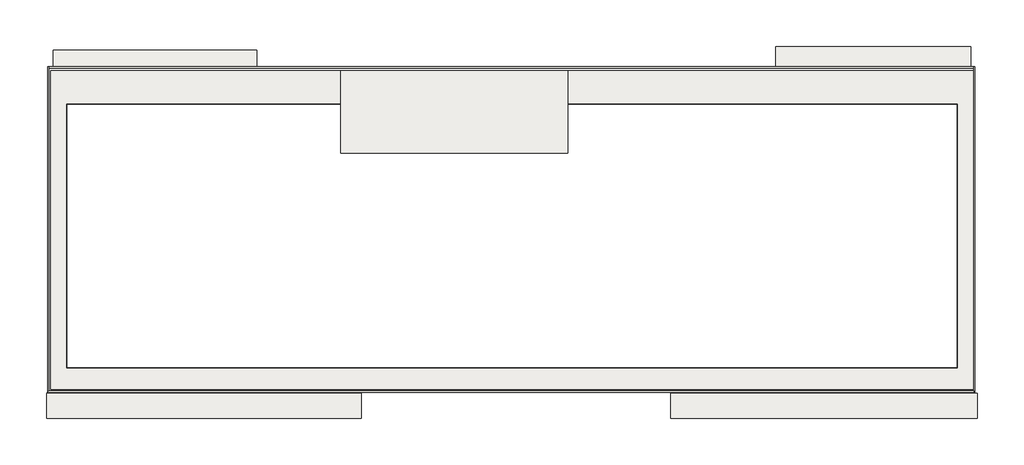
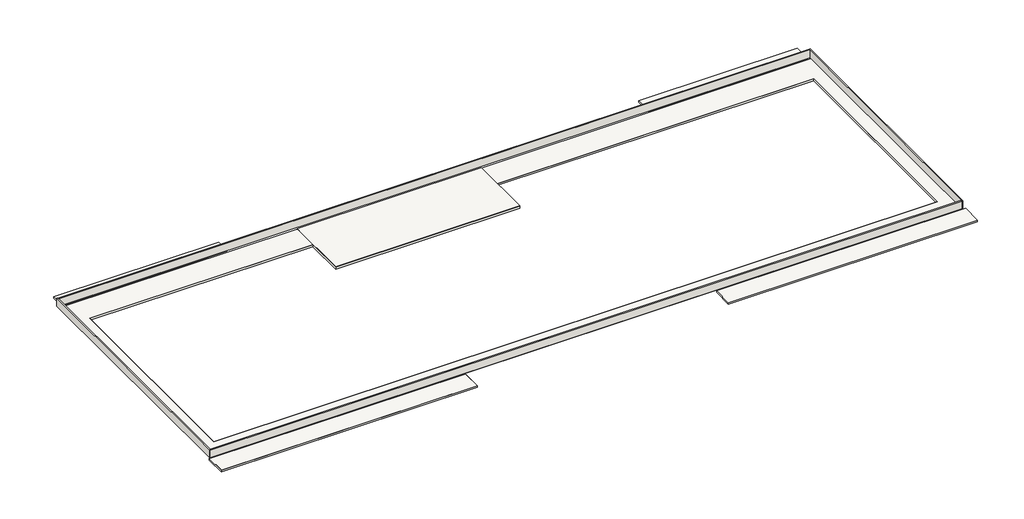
# One storey: 5 slabs, 4 walls.
"""IFC4 building model written with IfcOpenShell, lengths in millimetres."""

import ifcopenshell
import ifcopenshell.guid

model = None  # the IFC model being written
_history = None  # IfcOwnerHistory: only IFC2X3 demands one
_inside = {}  # id of a spatial element -> (the spatial element, [elements in it])
_under = {}  # id of a project, library or spatial element -> (it, [spatial elements below it])
_declared = {}  # id of a project -> (the project, [libraries it declares])
_typed = {}  # id of a type object -> (the type object, [elements of that type])
_made_of = {}  # id of a material, layer set ... -> (it, [elements and type objects made of it])


def new_model(schema):
    """Start an empty IFC model of exactly this schema.

    Asked for "IFC4X3", IfcOpenShell would pick the latest addendum, in which some entities
    have other attributes; the version numbers below select the first issue.
    IFC2X3 requires an IfcOwnerHistory on every rooted entity: one is made here for all.
    """
    global model, _history
    if schema == "IFC4X3":
        model = ifcopenshell.file(schema_version=(4, 3, 0, 0))
    else:
        model = ifcopenshell.file(schema=schema)
    _inside.clear()
    _under.clear()
    _declared.clear()
    _typed.clear()
    _made_of.clear()
    _history = None
    if model.schema == "IFC2X3":
        org = make("IfcOrganization", Name="unknown")
        user = make(
            "IfcPersonAndOrganization",
            ThePerson=make("IfcPerson", FamilyName="unknown"),
            TheOrganization=org,
        )
        app = make(
            "IfcApplication",
            ApplicationDeveloper=org,
            Version="unknown",
            ApplicationFullName="unknown",
            ApplicationIdentifier="unknown",
        )
        _history = make(
            "IfcOwnerHistory",
            OwningUser=user,
            OwningApplication=app,
            ChangeAction="ADDED",
            CreationDate=0,
        )
    return model


def make(cls, **values):
    """One entity of the class cls with the attributes given. An attribute that is None is left unset."""
    return model.create_entity(
        cls, **{name: value for name, value in values.items() if value is not None}
    )


def rooted(cls, **values):
    """An entity with a GlobalId (a new one), such as an element, a storey or a relation."""
    return make(cls, GlobalId=ifcopenshell.guid.new(), OwnerHistory=_history, **values)


def si_unit(unit_type, name, prefix=None):
    """IfcSIUnit, for example si_unit("LENGTHUNIT", "METRE", prefix="MILLI")."""
    return make("IfcSIUnit", UnitType=unit_type, Prefix=prefix, Name=name)


def assignment(units):
    """IfcUnitAssignment: the units of a project."""
    return None if units is None else make("IfcUnitAssignment", Units=units)


def point(xyz):
    """IfcCartesianPoint."""
    return None if xyz is None else make("IfcCartesianPoint", Coordinates=xyz)


def direction(xyz):
    """IfcDirection."""
    return None if xyz is None else make("IfcDirection", DirectionRatios=xyz)


def frame(location, z_axis=None, x_axis=None):
    """IfcAxis2Placement3D, a coordinate frame: its origin and axes. An axis left out is left unset."""
    return make(
        "IfcAxis2Placement3D",
        Location=point(location),
        Axis=direction(z_axis),
        RefDirection=direction(x_axis),
    )


def origin():
    """The frame at (0, 0, 0) with its axes left unset."""
    return frame((0.0, 0.0, 0.0))


def place(relative_to, where):
    """IfcLocalPlacement: puts the frame where relative to a parent placement (None: the world)."""
    return make(
        "IfcLocalPlacement", PlacementRelTo=relative_to, RelativePlacement=where
    )


def context(
    kind, dimensions, precision=None, world=None, true_north=None, identifier=None
):
    """IfcGeometricRepresentationContext, for example the 3D "Model" context."""
    return make(
        "IfcGeometricRepresentationContext",
        ContextIdentifier=identifier,
        ContextType=kind,
        CoordinateSpaceDimension=dimensions,
        Precision=precision,
        WorldCoordinateSystem=world,
        TrueNorth=true_north,
    )


def project(units=None, contexts=None):
    """IfcProject with its units and contexts."""
    return rooted(
        "IfcProject",
        Name="project",
        RepresentationContexts=contexts,
        UnitsInContext=assignment(units),
    )


def spatial(cls, under=None, at=None, **own):
    """A site, building, storey or space (cls), placed at a placement, below another one or the project."""
    s = rooted(cls, ObjectPlacement=at, **own)
    if under is not None:
        _under.setdefault(under.id(), (under, []))[1].append(s)
    return s


def polyline(points):
    """IfcPolyline through the points."""
    return make("IfcPolyline", Points=[point(p) for p in points])


def outline(outer, holes=None, kind="AREA"):
    """IfcArbitraryClosedProfileDef: a profile drawn as a closed curve; with holes, ...WithVoids."""
    if holes is None:
        return make("IfcArbitraryClosedProfileDef", ProfileType=kind, OuterCurve=outer)
    return make(
        "IfcArbitraryProfileDefWithVoids",
        ProfileType=kind,
        OuterCurve=outer,
        InnerCurves=holes,
    )


def extrude(swept, where, along, depth):
    """IfcExtrudedAreaSolid: the profile swept, set in the frame where, extruded along a direction by depth."""
    return make(
        "IfcExtrudedAreaSolid",
        SweptArea=swept,
        Position=where,
        ExtrudedDirection=direction(along),
        Depth=depth,
    )


def faces_of(points, faces, orient=None, outer=None):
    """IfcFace entities. A face is a list of loops; a loop is a list of indices into points, from 0.

    orient and outer hold one flag for each loop. By default every Orientation is true, the
    first loop of a face is its IfcFaceOuterBound and the others are IfcFaceBound.
    """
    made = []
    for i, loops in enumerate(faces):
        bounds = []
        for j, loop in enumerate(loops):
            is_outer = j == 0 if outer is None else outer[i][j]
            bounds.append(
                make(
                    "IfcFaceOuterBound" if is_outer else "IfcFaceBound",
                    Bound=make("IfcPolyLoop", Polygon=[points[k] for k in loop]),
                    Orientation=True if orient is None else orient[i][j],
                )
            )
        made.append(make("IfcFace", Bounds=bounds))
    return made


def faceted_brep(points, faces, orient=None, outer=None, voids=None):
    """IfcFacetedBrep: a solid bounded by flat faces; with voids (closed shells), ...WithVoids."""
    shared = [point(p) for p in points]
    hull = make("IfcClosedShell", CfsFaces=faces_of(shared, faces, orient, outer))
    if voids is None:
        return make("IfcFacetedBrep", Outer=hull)
    return make(
        "IfcFacetedBrepWithVoids",
        Outer=hull,
        Voids=[
            make(cls, CfsFaces=faces_of(shared, fs, o, b)) for cls, fs, o, b in voids
        ],
    )


def shape(context_of_items, identifier, shape_type, items):
    """IfcShapeRepresentation: the items that make up one representation, for example the "Body"."""
    return make(
        "IfcShapeRepresentation",
        ContextOfItems=context_of_items,
        RepresentationIdentifier=identifier,
        RepresentationType=shape_type,
        Items=items,
    )


def made_of(thing, what):
    """Note that an element or type object is made of a material, layer set ...; save() writes the relation."""
    if what is not None:
        _made_of.setdefault(what.id(), (what, []))[1].append(thing)
    return thing


def element(
    cls,
    number,
    at=None,
    inside=None,
    cuts=None,
    type_object=None,
    material=None,
    context=None,
    identifier="Body",
    shape_type=None,
    held_by="IfcProductDefinitionShape",
    body=None,
    shapes=None,
    **own,
):
    """One element of the class cls, such as IfcWall. Its Tag is "e" and its number.

    at: its placement. inside: the storey or other place that contains it. cuts: it is an
    opening in that element (IfcRelVoidsElement). A single representation is given by context,
    identifier, shape_type and body (its items); several are given by shapes. held_by: the class
    of the entity that holds the representations. save() writes the other relations.
    """
    e = rooted(cls, Tag="e%d" % number, ObjectPlacement=at, **own)
    if body is not None:
        shapes = [shape(context, identifier, shape_type, body)]
    if shapes is not None:
        e.Representation = make(held_by, Representations=shapes)
    if inside is not None:
        _inside.setdefault(inside.id(), (inside, []))[1].append(e)
    if cuts is not None:
        rooted(
            "IfcRelVoidsElement", RelatingBuildingElement=cuts, RelatedOpeningElement=e
        )
    if type_object is not None:
        _typed.setdefault(type_object.id(), (type_object, []))[1].append(e)
    return made_of(e, material)


def aggregate(whole, parts):
    """IfcRelAggregates: a whole, such as a stair, and the parts it consists of."""
    return rooted("IfcRelAggregates", RelatingObject=whole, RelatedObjects=parts)


def save(model, path):
    """Write the relations noted so far, then the file.

    IfcRelAggregates (storeys below a building ...), IfcRelContainedInSpatialStructure (elements
    in a storey), IfcRelDefinesByType, IfcRelAssociatesMaterial and IfcRelDeclares: one each for
    every whole, place, type object, material and project.
    """
    for whole, parts in _under.values():
        aggregate(whole, parts)
    for where, things in _inside.values():
        rooted(
            "IfcRelContainedInSpatialStructure",
            RelatedElements=things,
            RelatingStructure=where,
        )
    for kind, things in _typed.values():
        rooted("IfcRelDefinesByType", RelatedObjects=things, RelatingType=kind)
    for what, things in _made_of.values():
        rooted("IfcRelAssociatesMaterial", RelatedObjects=things, RelatingMaterial=what)
    for by, libraries in _declared.values():
        rooted("IfcRelDeclares", RelatingContext=by, RelatedDefinitions=libraries)
    model.write(path)


model = new_model("IFC4")

# Units and contexts
model_context = context("Model", 3, world=origin())
ifc_project = project(units=[si_unit("LENGTHUNIT", "METRE", prefix="MILLI")], contexts=[model_context])

# Site, building, storey
site = spatial("IfcSite", under=ifc_project)
building = spatial("IfcBuilding", under=site)
storey = spatial("IfcBuildingStorey", under=building, Name="PLANTA DE IMPERMEABILIZAÇÃO - COBERTURA", Elevation=7270.0)

# Slabs
placement = place(None, origin())
element("IfcSlab", 1, ObjectType="Impermeabilização 07 - Calhas, telhados metálicos, telhas, sheds, lajes inclinadas e vigas-calha", at=placement, inside=storey, context=model_context, shape_type="SweptSolid", body=[
    extrude(outline(polyline([(4031.3851708, 4481.6589671), (4031.3851708, 1225.494517), (-4958.6148292, 1225.494517), (-4958.6148292, 4481.6589671), (4031.3851708, 4481.6589671)])), frame((0.0, 0.0, 7201.0), z_axis=(0.0, 0.0, 1.0), x_axis=(1.0, 0.0, 0.0)), (0.0, 0.0, 1.0), 94.0),
])
element("IfcSlab", 2, ObjectType="Impermeabilização 07 - Calhas, telhados metálicos, telhas, sheds, lajes inclinadas e vigas-calha", at=placement, inside=storey, context=model_context, shape_type="SweptSolid", body=[
    extrude(outline(polyline([(4031.3851708, 4481.6589671), (20109.386842, 4481.6589671), (20109.386842, -8165.3257111), (-16466.6222394, -8165.3257111), (-16466.6222394, 4481.6589671), (-4943.1148292, 4481.6589671), (4031.3851708, 4481.6589671)]), holes=[polyline([(-4958.6148292, 3159.1589671), (-15828.6148292, 3159.1589671), (-15828.6148292, -7308.3410329), (19471.3851708, -7308.3410329), (19471.3851708, 3159.1589671), (4031.3851708, 3159.1589671), (4031.3851708, 1225.494517), (-4958.6148292, 1225.494517), (-4958.6148292, 3159.1589671)])]), frame((0.0, 0.0, 7176.0), z_axis=(0.0, 0.0, 1.0), x_axis=(1.0, 0.0, 0.0)), (0.0, 0.0, 1.0), 94.0),
])
element("IfcSlab", 3, ObjectType="Impermeabilização 01 - Lajes de cobertura ou terraço", at=placement, inside=storey, context=model_context, shape_type="SweptSolid", body=[
    extrude(outline(polyline([(-8301.1148292, 5298.1531161), (-8301.1148292, 4641.6589671), (-16356.6158702, 4641.6589671), (-16356.6158702, 5298.1531161), (-8301.1148292, 5298.1531161)])), frame((0.0, 0.0, 7195.0), z_axis=(0.0, 0.0, 1.0), x_axis=(1.0, 0.0, 0.0)), (0.0, 0.0, 1.0), 75.0),
    extrude(outline(polyline([(19999.386842, 5447.1581782), (19999.386842, 4641.6589671), (12268.8833533, 4641.6589671), (12268.8833533, 5447.1581782), (19999.386842, 5447.1581782)])), frame((0.0, 0.0, 7195.0), z_axis=(0.0, 0.0, 1.0), x_axis=(1.0, 0.0, 0.0)), (0.0, 0.0, 1.0), 75.0),
    extrude(outline(polyline([(20269.386842, -8320.8410329), (20269.386842, -9312.594029), (8116.3833533, -9312.594029), (8116.3833533, -8320.8410329), (20269.386842, -8320.8410329)])), frame((0.0, 0.0, 7195.0), z_axis=(0.0, 0.0, 1.0), x_axis=(1.0, 0.0, 0.0)), (0.0, 0.0, 1.0), 75.0),
    extrude(outline(polyline([(-4143.6166467, -9308.8410329), (-16626.6158702, -9308.8410329), (-16626.6158702, -8320.8410329), (-4143.6166467, -8320.8410329), (-4143.6166467, -9308.8410329)])), frame((0.0, 0.0, 7195.0), z_axis=(0.0, 0.0, 1.0), x_axis=(1.0, 0.0, 0.0)), (0.0, 0.0, 1.0), 75.0),
])
element("IfcSlab", 4, ObjectType="Impermeabilização 07 - Calhas, telhados metálicos, telhas, sheds, lajes inclinadas e vigas-calha", at=placement, inside=storey, context=model_context, shape_type="SweptSolid", body=[
    extrude(outline(polyline([(20109.386842, 4481.6589671), (20109.386842, 3159.1589671), (20109.386842, -8165.3257111), (-16466.6222394, -8165.3257111), (-16466.6222394, 4481.6589671), (-4958.6148292, 4481.6589671), (-4958.6148292, 3159.1589671), (-15828.6148292, 3159.1589671), (-15828.6148292, -7308.3410329), (19471.3851708, -7308.3410329), (19471.3851708, 3159.1589671), (4031.3851708, 3159.1589671), (4031.3851708, 4481.6589671), (20109.386842, 4481.6589671)])), frame((0.0, 0.0, 7176.0), z_axis=(0.0, 0.0, 1.0), x_axis=(1.0, 0.0, 0.0)), (0.0, 0.0, 1.0), 94.0),
])
element("IfcSlab", 5, ObjectType="Impermeabilização 01 - Lajes de cobertura ou terraço", at=placement, inside=storey, context=model_context, shape_type="SweptSolid", body=[
    extrude(outline(polyline([(-4143.6166467, -8268.0808858), (-4143.6166467, -9312.594029), (-16600.4180686, -9312.594029), (-16600.4180686, -8268.0808858), (-4143.6166467, -8268.0808858)])), frame((0.0, 0.0, 7195.0), z_axis=(0.0, 0.0, 1.0), x_axis=(1.0, 0.0, 0.0)), (0.0, 0.0, 1.0), 75.0),
    extrude(outline(polyline([(20269.386842, -9312.594029), (8116.3833533, -9312.594029), (8116.3833533, -8320.8410329), (20269.386842, -8320.8410329), (20269.386842, -9312.594029)])), frame((0.0, 0.0, 7195.0), z_axis=(0.0, 0.0, 1.0), x_axis=(1.0, 0.0, 0.0)), (0.0, 0.0, 1.0), 75.0),
    extrude(outline(polyline([(19999.386842, 5447.1581782), (19999.386842, 4641.6589671), (12268.8833533, 4641.6589671), (12268.8833533, 5447.1581782), (19999.386842, 5447.1581782)])), frame((0.0, 0.0, 7195.0), z_axis=(0.0, 0.0, 1.0), x_axis=(1.0, 0.0, 0.0)), (0.0, 0.0, 1.0), 75.0),
    extrude(outline(polyline([(-8301.1148292, 4641.6589671), (-16356.6158702, 4641.6589671), (-16356.6158702, 5298.1531161), (-8301.1148292, 5298.1531161), (-8301.1148292, 4641.6589671)])), frame((0.0, 0.0, 7195.0), z_axis=(0.0, 0.0, 1.0), x_axis=(1.0, 0.0, 0.0)), (0.0, 0.0, 1.0), 75.0),
])

# Walls
element("IfcWall", 6, ObjectType="Impermeabilização 12 - Coberturas expostas sem trânsito de pedestres", at=placement, inside=storey, context=model_context, shape_type="Brep", body=[
    faceted_brep([(20116.0819314, 4642.9191142, 7270.0), (20116.0819314, 4591.9191142, 7270.0), (20116.0819314, -8217.0808858, 7270.0), (20116.0819314, -8268.0808858, 7270.0), (20116.0819314, -8268.0808858, 7670.0), (20116.0819314, -8217.0808858, 7670.0), (20116.0819314, 4591.9191142, 7670.0), (20116.0819314, 4642.9191142, 7670.0), (20167.0819314, 4642.9191142, 7270.0), (20167.0819314, 4642.9191142, 7670.0), (20167.0819314, -8268.0808858, 7670.0), (20167.0819314, -8268.0808858, 7270.0)], [[[0, 1, 2, 3, 4, 5, 6, 7]], [[8, 9, 10, 11]], [[3, 2, 1, 0, 8, 11]], [[7, 6, 5, 4, 10, 9]], [[4, 3, 11, 10]], [[0, 7, 9, 8]]]),
])
element("IfcWall", 7, ObjectType="Impermeabilização 12 - Coberturas expostas sem trânsito de pedestres", at=placement, inside=storey, context=model_context, shape_type="Brep", body=[
    faceted_brep([(20116.0819314, -8217.0808858, 7270.0), (-16532.9180686, -8217.0808858, 7270.0), (-16583.9180686, -8217.0808858, 7270.0), (-16583.9180686, -8217.0808858, 7670.0), (-16532.9180686, -8217.0808858, 7670.0), (20116.0819314, -8217.0808858, 7670.0), (20116.0819314, -8268.0808858, 7270.0), (20116.0819314, -8268.0808858, 7670.0), (-16583.9180686, -8268.0808858, 7670.0), (-16583.9180686, -8268.0808858, 7270.0)], [[[0, 1, 2, 3, 4, 5]], [[6, 7, 8, 9]], [[2, 1, 0, 6, 9]], [[5, 4, 3, 8, 7]], [[0, 5, 7, 6]], [[3, 2, 9, 8]]]),
])
element("IfcWall", 8, ObjectType="Impermeabilização 12 - Coberturas expostas sem trânsito de pedestres", at=placement, inside=storey, context=model_context, shape_type="Brep", body=[
    faceted_brep([(-16532.9180686, -8217.0808858, 7270.0), (-16532.9180686, 4591.9191142, 7270.0), (-16532.9180686, 4642.9191142, 7270.0), (-16532.9180686, 4642.9191142, 7670.0), (-16532.9180686, 4591.9191142, 7670.0), (-16532.9180686, -8217.0808858, 7670.0), (-16583.9180686, -8217.0808858, 7270.0), (-16583.9180686, -8217.0808858, 7670.0), (-16583.9180686, 4642.9191142, 7670.0), (-16583.9180686, 4642.9191142, 7270.0)], [[[0, 1, 2, 3, 4, 5]], [[6, 7, 8, 9]], [[2, 1, 0, 6, 9]], [[5, 4, 3, 8, 7]], [[0, 5, 7, 6]], [[3, 2, 9, 8]]]),
])
element("IfcWall", 9, ObjectType="Impermeabilização 12 - Coberturas expostas sem trânsito de pedestres", at=placement, inside=storey, context=model_context, shape_type="SweptSolid", body=[
    extrude(outline(polyline([(20116.0819314, 4591.9191142), (-16532.9180686, 4591.9191142), (-16532.9180686, 4642.9191142), (20116.0819314, 4642.9191142), (20116.0819314, 4591.9191142)])), frame((0.0, 0.0, 7270.0), z_axis=(0.0, 0.0, 1.0), x_axis=(1.0, 0.0, 0.0)), (0.0, 0.0, 1.0), 400.0),
])

save(model, "model.ifc")
